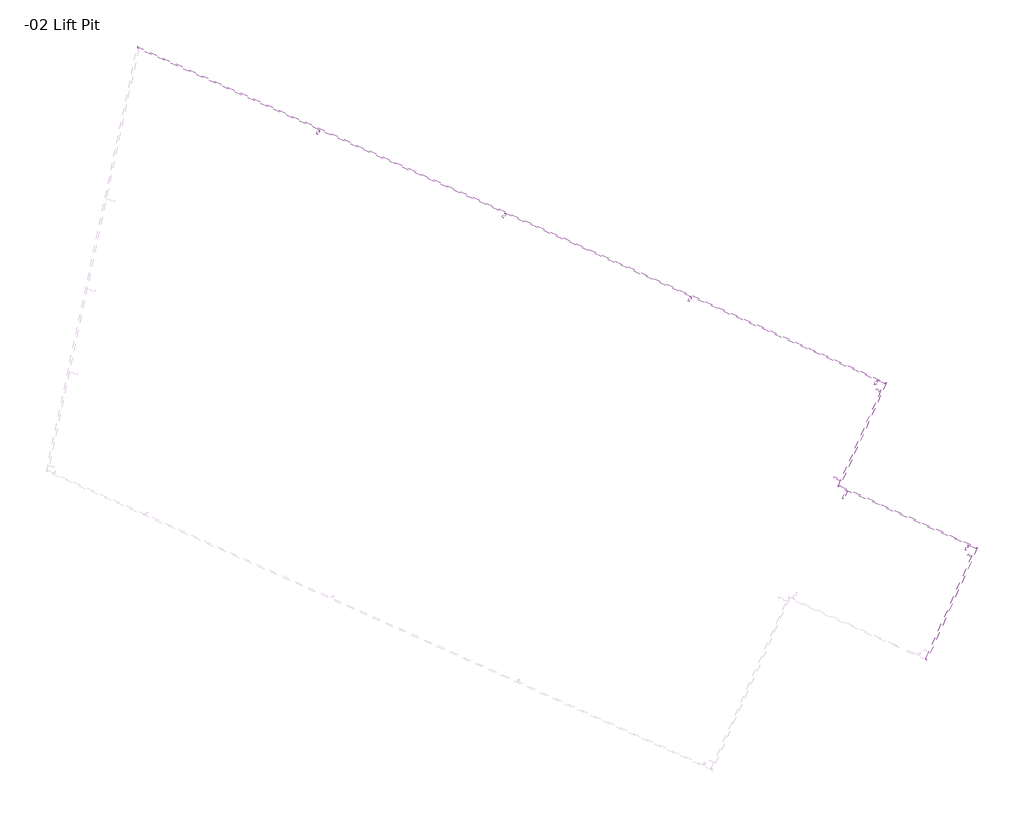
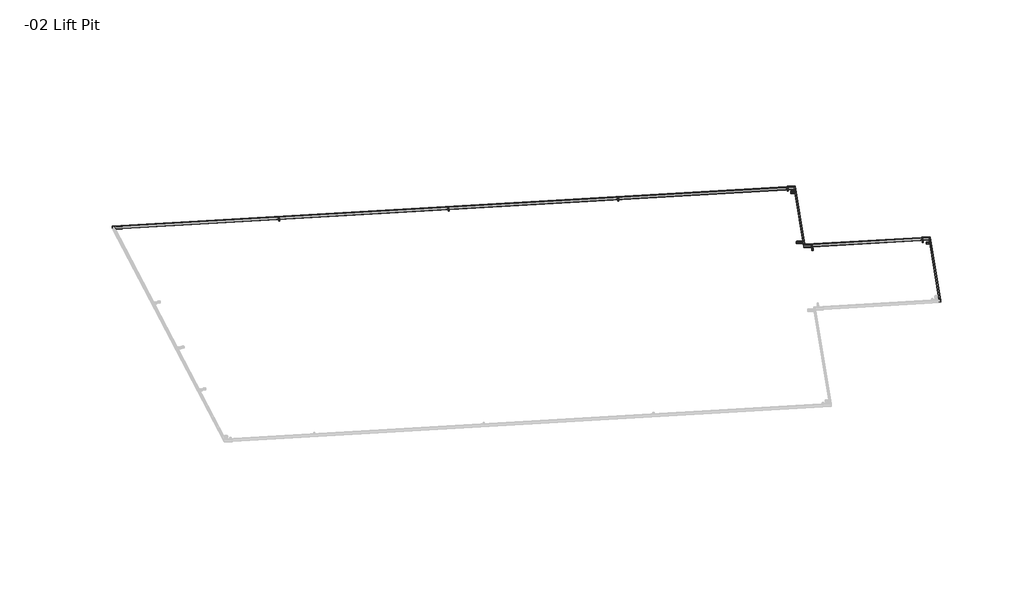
# One storey, part 3 of 3: 13 beams.
"""IFC4 building model written with IfcOpenShell, lengths in millimetres."""

from ifc_helpers import new_model, si_unit, frame, origin, place, context, project, spatial, polyline, ellipse_curve, transform, mapped, element, save
from ifc_brep_helpers import plane_surface, cylinder_surface, revolved_surface, advanced_brep
from components import hss_hollow_structural_section_hss3x2x1_8_a8fac2c2, hss_hollow_structural_section_hss3x2x1_8_4cf7df58, hss_hollow_structural_section_hss3x2x1_8_9bae5ac0, hss_hollow_structural_section_hss3x2x1_8_4448584e, hss_hollow_structural_section_hss3x2x1_8_013797e3, hss_hollow_structural_section_hss3x2x1_8_d322ad7d, hss_hollow_structural_section_hss3x2x1_8_eb60367d

model = new_model("IFC4")

# Units and contexts
model_context = context("Model", 3, world=origin())
ifc_project = project(units=[si_unit("LENGTHUNIT", "METRE", prefix="MILLI")], contexts=[model_context])

# Site, building, storey
site = spatial("IfcSite", under=ifc_project)
building = spatial("IfcBuilding", under=site)
storey = spatial("IfcBuildingStorey", under=building, Name="-02 Lift Pit", Elevation=-2133.6)

# Beams
placement = place(None, origin())
hss_hollow_structural_section_hss3x2x1_8_shape = hss_hollow_structural_section_hss3x2x1_8_a8fac2c2(model_context)
element("IfcBeam", 1, ObjectType="HSS-Hollow Structural Section : HSS3X2X1/8", at=placement, inside=storey, context=model_context, shape_type="MappedRepresentation", body=[
    mapped(hss_hollow_structural_section_hss3x2x1_8_shape, transform((36965.3915736, -2497.5805101, 16658.2302755), x_axis=(0.4091945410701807, 0.9109449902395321, 0.052335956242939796), y_axis=(-0.9121951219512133, 0.4097560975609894, 0.0), z_axis=(-0.021444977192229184, -0.04774060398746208, 0.9986295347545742))),
])
element("IfcBeam", 2, ObjectType="HSS-Hollow Structural Section : HSS3X2X1/8", at=placement, inside=storey, context=model_context, shape_type="MappedRepresentation", body=[
    mapped(hss_hollow_structural_section_hss3x2x1_8_shape, transform((43360.2442565, -5370.1346564, 16658.2302755), x_axis=(0.40919454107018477, 0.9109449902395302, 0.05233595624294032), y_axis=(-0.9121951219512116, 0.40975609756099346, 0.0), z_axis=(-0.0214449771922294, -0.047740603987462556, 0.9986295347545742))),
])
element("IfcBeam", 3, ObjectType="HSS-Hollow Structural Section : HSS3X2X1/8", at=placement, inside=storey, context=model_context, shape_type="MappedRepresentation", body=[
    mapped(hss_hollow_structural_section_hss3x2x1_8_shape, transform((56149.9496224, -11115.2429491, 16658.2302755), x_axis=(0.40919454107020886, 0.9109449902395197, 0.05233595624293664), y_axis=(-0.9121951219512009, 0.40975609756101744, 0.0), z_axis=(-0.021444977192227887, -0.04774060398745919, 0.9986295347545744))),
])
hss_hollow_structural_section_hss3x2x1_8_2_shape = hss_hollow_structural_section_hss3x2x1_8_4cf7df58(model_context)
element("IfcBeam", 4, ObjectType="HSS-Hollow Structural Section : HSS3X2X1/8", at=placement, inside=storey, context=model_context, shape_type="MappedRepresentation", body=[
    mapped(hss_hollow_structural_section_hss3x2x1_8_2_shape, transform((49758.4300196, -8235.2687316, 16658.6565762), x_axis=(0.40919454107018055, 0.9109449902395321, 0.052335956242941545), y_axis=(-0.9121951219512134, 0.40975609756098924, 0.0), z_axis=(-0.021444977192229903, -0.047740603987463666, 0.998629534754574))),
])
hss_hollow_structural_section_hss3x2x1_8_3_shape = hss_hollow_structural_section_hss3x2x1_8_9bae5ac0(model_context)
element("IfcBeam", 5, ObjectType="HSS-Hollow Structural Section : HSS3X2X1/8", at=placement, inside=storey, context=model_context, shape_type="MappedRepresentation", body=[
    mapped(hss_hollow_structural_section_hss3x2x1_8_3_shape, transform((56223.3592947, -11323.7476071, 16649.8389058), x_axis=(0.9121951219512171, -0.4097560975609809, 0.0), y_axis=(0.40919454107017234, 0.9109449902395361, 0.052335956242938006), z_axis=(-0.021444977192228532, -0.0477406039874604, 0.9986295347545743))),
])
hss_hollow_structural_section_hss3x2x1_8_4_shape = hss_hollow_structural_section_hss3x2x1_8_4448584e(model_context)
element("IfcBeam", 6, ObjectType="HSS-Hollow Structural Section : HSS3X2X1/8", at=placement, inside=storey, context=model_context, shape_type="MappedRepresentation", body=[
    mapped(hss_hollow_structural_section_hss3x2x1_8_4_shape, transform((54845.0693796, -14392.0834896, 16473.5557118), x_axis=(0.9121951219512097, -0.4097560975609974, 0.0), y_axis=(0.40919454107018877, 0.9109449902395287, 0.05233595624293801), z_axis=(-0.0214449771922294, -0.047740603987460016, 0.9986295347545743))),
])
hss_hollow_structural_section_hss3x2x1_8_5_shape = hss_hollow_structural_section_hss3x2x1_8_013797e3(model_context)
element("IfcBeam", 7, ObjectType="HSS-Hollow Structural Section : HSS3X2X1/8", at=placement, inside=storey, context=model_context, shape_type="MappedRepresentation", body=[
    mapped(hss_hollow_structural_section_hss3x2x1_8_5_shape, transform((55111.4186399, -14914.9250173, 16454.2803791), x_axis=(-0.409194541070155, -0.9109449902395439, -0.0523359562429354), y_axis=(0.912195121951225, -0.40975609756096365, 0.0), z_axis=(-0.021444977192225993, -0.04774060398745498, 0.9986295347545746))),
])
hss_hollow_structural_section_hss3x2x1_8_6_shape = hss_hollow_structural_section_hss3x2x1_8_d322ad7d(model_context)
element("IfcBeam", 8, ObjectType="HSS-Hollow Structural Section : HSS3X2X1/8", at=placement, inside=storey, context=model_context, shape_type="MappedRepresentation", body=[
    mapped(hss_hollow_structural_section_hss3x2x1_8_6_shape, transform((59281.9747374, -16788.3298954, 16454.2803791), x_axis=(0.40919454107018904, 0.9109449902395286, 0.05233595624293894), y_axis=(-0.9121951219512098, 0.4097560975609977, 0.0), z_axis=(-0.021444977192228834, -0.047740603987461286, 0.9986295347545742))),
])
hss_hollow_structural_section_hss3x2x1_8_7_shape = hss_hollow_structural_section_hss3x2x1_8_eb60367d(model_context)
element("IfcBeam", 9, ObjectType="HSS-Hollow Structural Section : HSS3X2X1/8", at=placement, inside=storey, context=model_context, shape_type="MappedRepresentation", body=[
    mapped(hss_hollow_structural_section_hss3x2x1_8_7_shape, transform((59352.9844438, -17002.1773347, 16445.582054), x_axis=(0.9121951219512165, -0.4097560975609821, 0.0), y_axis=(0.4091945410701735, 0.9109449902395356, 0.05233595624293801), z_axis=(-0.021444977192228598, -0.04774060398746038, 0.9986295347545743))),
])
element("IfcBeam", 10, ObjectType="HSS-Hollow Structural Section : HSS5X2X1/8", at=placement, inside=storey, context=model_context, shape_type="AdvancedBrep", body=[
    advanced_brep(
    [(56518.5551186, -11086.120904, 16705.6903584), (56526.4681746, -11082.8861722, 16700.1140396), (30771.4031294, 486.233955, 16700.1140396), (30775.5166497, 477.596911, 16705.6903584), (56467.0018937, -11105.6744879, 16703.6485024), (30803.5876534, 422.2762939, 16703.6485024), (56459.3415797, -11108.346568, 16697.455373), (30807.9539155, 414.2019015, 16697.455373), (56461.8123499, -11102.8461629, 16582.3988703), (30810.4246857, 419.7023065, 16582.3988703), (56469.7254058, -11099.6114312, 16576.8225515), (30806.3111655, 428.3393506, 16576.8225515), (56521.2786307, -11080.0578473, 16578.8644074), (30778.2401618, 483.6599677, 16578.8644074), (56528.9389447, -11077.3857672, 16585.0575369), (30773.8738996, 491.73436, 16585.0575369), (56518.6183041, -11085.980241, 16702.7479963), (56467.0650792, -11105.533825, 16700.7061404), (30803.6508388, 422.4169568, 16700.7061404), (30775.5798351, 477.7375739, 16702.7479963), (56522.5748321, -11084.3628752, 16699.9598369), (30773.523075, 482.0560959, 16699.9598369), (56525.0456022, -11078.8624701, 16584.9033342), (30775.9938452, 487.5565009, 16584.9033342), (56521.2154452, -11080.1985102, 16581.8067695), (30778.1769763, 483.5193048, 16581.8067695), (56469.6622203, -11099.7520941, 16579.7649136), (30806.24798, 428.1986877, 16579.7649136), (56465.7056924, -11101.36946, 16582.553073), (30808.3047401, 423.8801657, 16582.553073), (56463.2349222, -11106.869865, 16697.6095756), (30805.8339699, 418.3797606, 16697.6095756)],
    [
        (0, 1, ellipse_curve(frame((56518.6814896, -11085.8395781, 16699.8056342), z_axis=(-0.35567512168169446, 0.93387669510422, 0.03700710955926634), x_axis=(0.934363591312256, 0.3543940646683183, 0.03700710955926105)), 8.3336777, 5.8928)),
        (1, 2),
        (2, 3, ellipse_curve(frame((30775.6430206, 477.8782368, 16699.8056342), z_axis=(0.8916297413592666, 0.45093186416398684, 0.04070452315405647), x_axis=(0.45225713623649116, -0.891280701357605, -0.03289671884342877)), 9.3749569, 5.8928)),
        (3, 0),
        (4, 0),
        (3, 5),
        (5, 4),
        (6, 4, ellipse_curve(frame((56467.1282647, -11105.3931621, 16697.7637783), z_axis=(-0.35567512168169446, 0.93387669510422, 0.03700710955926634), x_axis=(0.934363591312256, 0.3543940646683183, 0.03700710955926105)), 8.3336777, 5.8928)),
        (5, 7, ellipse_curve(frame((30803.7140243, 422.5576197, 16697.7637783), z_axis=(0.8916297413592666, 0.45093186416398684, 0.04070452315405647), x_axis=(0.45225713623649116, -0.891280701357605, -0.03289671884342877)), 9.3749569, 5.8928)),
        (7, 6),
        (8, 6),
        (7, 9),
        (9, 8),
        (10, 8, ellipse_curve(frame((56469.5990349, -11099.892757, 16582.7072756), z_axis=(-0.35567512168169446, 0.93387669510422, 0.03700710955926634), x_axis=(0.934363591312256, 0.3543940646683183, 0.03700710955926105)), 8.3336777, 5.8928)),
        (9, 11, ellipse_curve(frame((30806.1847945, 428.0580248, 16582.7072756), z_axis=(0.8916297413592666, 0.45093186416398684, 0.04070452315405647), x_axis=(0.45225713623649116, -0.891280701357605, -0.03289671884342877)), 9.3749569, 5.8928)),
        (11, 10),
        (12, 10),
        (11, 13),
        (13, 12),
        (14, 12, ellipse_curve(frame((56521.1522597, -11080.3391731, 16584.7491316), z_axis=(-0.35567512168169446, 0.93387669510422, 0.03700710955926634), x_axis=(0.934363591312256, 0.3543940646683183, 0.03700710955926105)), 8.3336777, 5.8928)),
        (13, 15, ellipse_curve(frame((30778.1137908, 483.3786418, 16584.7491316), z_axis=(0.8916297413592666, 0.45093186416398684, 0.04070452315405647), x_axis=(0.45225713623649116, -0.891280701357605, -0.03289671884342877)), 9.3749569, 5.8928)),
        (15, 14),
        (1, 14),
        (15, 2),
        (16, 17),
        (17, 18),
        (18, 19),
        (19, 16),
        (20, 16, ellipse_curve(frame((56518.6814896, -11085.8395781, 16699.8056342), z_axis=(0.35567512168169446, -0.93387669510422, -0.03700710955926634), x_axis=(-0.934363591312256, -0.3543940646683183, -0.03700710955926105)), 4.1668388, 2.9464)),
        (19, 21, ellipse_curve(frame((30775.6430206, 477.8782368, 16699.8056342), z_axis=(-0.8916297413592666, -0.45093186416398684, -0.04070452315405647), x_axis=(-0.45225713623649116, 0.891280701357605, 0.03289671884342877)), 4.6874785, 2.9464)),
        (21, 20),
        (22, 20),
        (21, 23),
        (23, 22),
        (24, 22, ellipse_curve(frame((56521.1522597, -11080.3391731, 16584.7491316), z_axis=(0.35567512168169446, -0.93387669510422, -0.03700710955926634), x_axis=(-0.934363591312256, -0.3543940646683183, -0.03700710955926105)), 4.1668388, 2.9464)),
        (23, 25, ellipse_curve(frame((30778.1137908, 483.3786418, 16584.7491316), z_axis=(-0.8916297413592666, -0.45093186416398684, -0.04070452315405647), x_axis=(-0.45225713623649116, 0.891280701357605, 0.03289671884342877)), 4.6874785, 2.9464)),
        (25, 24),
        (26, 24),
        (25, 27),
        (27, 26),
        (28, 26, ellipse_curve(frame((56469.5990349, -11099.892757, 16582.7072756), z_axis=(0.35567512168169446, -0.93387669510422, -0.03700710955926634), x_axis=(-0.934363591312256, -0.3543940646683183, -0.03700710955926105)), 4.1668388, 2.9464)),
        (27, 29, ellipse_curve(frame((30806.1847945, 428.0580248, 16582.7072756), z_axis=(-0.8916297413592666, -0.45093186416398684, -0.04070452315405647), x_axis=(-0.45225713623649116, 0.891280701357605, 0.03289671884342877)), 4.6874785, 2.9464)),
        (29, 28),
        (30, 28),
        (29, 31),
        (31, 30),
        (17, 30, ellipse_curve(frame((56467.1282647, -11105.3931621, 16697.7637783), z_axis=(0.35567512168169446, -0.93387669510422, -0.03700710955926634), x_axis=(-0.934363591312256, -0.3543940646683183, -0.03700710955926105)), 4.1668388, 2.9464)),
        (31, 18, ellipse_curve(frame((30803.7140243, 422.5576197, 16697.7637783), z_axis=(-0.8916297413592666, -0.45093186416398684, -0.04070452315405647), x_axis=(-0.45225713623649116, 0.891280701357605, 0.03289671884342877)), 4.6874785, 2.9464)),
    ],
    [
        cylinder_surface(frame((56500.8871169, -11077.846384, 16699.8056342), z_axis=(0.9121951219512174, -0.40975609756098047, 0.0), x_axis=(-0.40919454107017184, -0.9109449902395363, -0.05233595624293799)), 5.8928),
        plane_surface(frame((56500.7607459, -11078.1277098, 16705.6903584), z_axis=(-0.02144497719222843, -0.04774060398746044, 0.9986295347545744), x_axis=(-0.9121951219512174, 0.40975609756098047, 0.0))),
        cylinder_surface(frame((56484.9226374, -11113.3863562, 16697.7637783), z_axis=(0.9121951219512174, -0.40975609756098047, 0.0), x_axis=(-0.40919454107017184, -0.9109449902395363, -0.05233595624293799)), 5.8928),
        plane_surface(frame((56482.5113358, -11118.7543728, 16697.455373), z_axis=(-0.4091945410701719, -0.9109449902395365, -0.052335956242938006), x_axis=(-0.9121951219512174, 0.40975609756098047, 0.0))),
        cylinder_surface(frame((56487.3934075, -11107.8859512, 16582.7072756), z_axis=(0.9121951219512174, -0.40975609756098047, 0.0), x_axis=(-0.40919454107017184, -0.9109449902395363, -0.05233595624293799)), 5.8928),
        plane_surface(frame((56487.5197785, -11107.6046253, 16576.8225515), z_axis=(0.02144497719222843, 0.04774060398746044, -0.9986295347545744), x_axis=(-0.9121951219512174, 0.40975609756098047, 0.0))),
        cylinder_surface(frame((56503.3578871, -11072.3459789, 16584.7491316), z_axis=(0.9121951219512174, -0.40975609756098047, 0.0), x_axis=(-0.40919454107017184, -0.9109449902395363, -0.05233595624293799)), 5.8928),
        plane_surface(frame((56505.7691886, -11066.9779623, 16585.0575369), z_axis=(0.4091945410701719, 0.9109449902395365, 0.052335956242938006), x_axis=(-0.9121951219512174, 0.40975609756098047, 0.0))),
        plane_surface(frame((56484.8594519, -11113.5270191, 16700.7061404), z_axis=(0.02144497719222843, 0.04774060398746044, -0.9986295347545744), x_axis=(-0.9121951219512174, 0.40975609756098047, 0.0))),
        revolved_surface(polyline([(30771.111773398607, 476.68807927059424, 16699.65143153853), (56520.16353050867, -11089.730891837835, 16699.65143153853)]), (56500.8871169, -11077.846384, 16699.8056342), (-0.9121951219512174, 0.40975609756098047, 0.0)),
        plane_surface(frame((56502.0927677, -11075.1623757, 16699.9598369), z_axis=(-0.4091945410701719, -0.9109449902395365, -0.052335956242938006), x_axis=(-0.9121951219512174, 0.40975609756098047, 0.0))),
        revolved_surface(polyline([(30773.58254363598, 482.1884843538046, 16584.594928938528), (56522.63430062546, -11084.230486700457, 16584.594928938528)]), (56503.3578871, -11072.3459789, 16584.7491316), (-0.9121951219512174, 0.40975609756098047, 0.0)),
        plane_surface(frame((56503.4210725, -11072.205316, 16581.8067695), z_axis=(-0.02144497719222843, -0.04774060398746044, 0.9986295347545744), x_axis=(-0.9121951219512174, 0.40975609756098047, 0.0))),
        revolved_surface(polyline([(30801.65354725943, 426.8678671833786, 16582.55307293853), (56471.08107575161, -11103.7840707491, 16582.55307293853)]), (56487.3934075, -11107.8859512, 16582.7072756), (-0.9121951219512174, 0.40975609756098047, 0.0)),
        plane_surface(frame((56486.1877568, -11110.5699595, 16582.553073), z_axis=(0.4091945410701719, 0.9109449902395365, 0.052335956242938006), x_axis=(-0.9121951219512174, 0.40975609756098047, 0.0))),
        revolved_surface(polyline([(30799.182777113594, 421.3674622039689, 16697.609575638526), (56468.61030560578, -11109.284475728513, 16697.609575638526)]), (56484.9226374, -11113.3863562, 16697.7637783), (-0.9121951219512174, 0.40975609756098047, 0.0)),
        plane_surface(frame((30806.1934373, 410.2827416, 16779.4356677), z_axis=(-0.8916297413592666, -0.45093186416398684, -0.04070452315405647), x_axis=(0.4527652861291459, -0.888019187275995, -0.08015933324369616))),
        plane_surface(frame((56457.5811015, -11112.2657278, 16779.4356677), z_axis=(0.3556751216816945, -0.9338766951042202, -0.037007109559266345), x_axis=(0.9346096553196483, 0.35539618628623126, 0.014083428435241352))),
    ],
    [
        (0, [[1, 2, 3, 4]]),
        (1, [[5, -4, 6, 7]]),
        (2, [[8, -7, 9, 10]]),
        (3, [[11, -10, 12, 13]]),
        (4, [[14, -13, 15, 16]]),
        (5, [[17, -16, 18, 19]]),
        (6, [[20, -19, 21, 22]]),
        (7, [[23, -22, 24, -2]]),
        (8, [[25, 26, 27, 28]]),
        (9, [[29, -28, 30, 31]]),
        (10, [[32, -31, 33, 34]]),
        (11, [[35, -34, 36, 37]]),
        (12, [[38, -37, 39, 40]]),
        (13, [[41, -40, 42, 43]]),
        (14, [[44, -43, 45, 46]]),
        (15, [[47, -46, 48, -26]]),
        (16, [[-24, -21, -18, -15, -12, -9, -6, -3], [-48, -45, -42, -39, -36, -33, -30, -27]]),
        (17, [[-1, -5, -8, -11, -14, -17, -20, -23], [-25, -29, -32, -35, -38, -41, -44, -47]]),
    ],
),
])
element("IfcBeam", 11, ObjectType="HSS-Hollow Structural Section : HSS5X2X1/8", at=placement, inside=storey, context=model_context, shape_type="AdvancedBrep", body=[
    advanced_brep(
    [(54925.8991442, -14631.6764659, 16501.9897587), (54933.8122002, -14628.4417342, 16496.4134399), (56526.4681746, -11082.8861722, 16700.1140396), (56518.5551186, -11086.120904, 16705.6903584), (54874.3459194, -14651.2300499, 16499.9479028), (56467.0018937, -11105.6744879, 16703.6485024), (54866.6856053, -14653.90213, 16493.7547733), (56459.3415797, -11108.346568, 16697.455373), (54869.1563755, -14648.4017249, 16378.6982707), (56461.8123499, -11102.8461629, 16582.3988703), (54877.0694315, -14645.1669932, 16373.1219519), (56469.7254058, -11099.6114312, 16576.8225515), (54928.6226563, -14625.6134092, 16375.1638078), (56521.2786307, -11080.0578473, 16578.8644074), (54936.2829704, -14622.9413292, 16381.3569373), (56528.9389447, -11077.3857672, 16585.0575369), (54925.9623297, -14631.535803, 16499.0473967), (54874.4091048, -14651.089387, 16497.0055407), (56467.0650792, -11105.533825, 16700.7061404), (56518.6183041, -11085.980241, 16702.7479963), (54929.9188577, -14629.9184372, 16496.2592373), (56522.5748321, -11084.3628752, 16699.9598369), (54932.3896279, -14624.4180321, 16381.2027346), (56525.0456022, -11078.8624701, 16584.9033342), (54928.5594708, -14625.7540722, 16378.1061699), (56521.2154452, -11080.1985102, 16581.8067695), (54877.006246, -14645.3076561, 16376.0643139), (56469.6622203, -11099.7520941, 16579.7649136), (54873.049718, -14646.925022, 16378.8524733), (56465.7056924, -11101.36946, 16582.553073), (54870.5789478, -14652.425427, 16493.908976), (56463.2349222, -11106.869865, 16697.6095756)],
    [
        (0, 1, ellipse_curve(frame((54926.0255152, -14631.3951401, 16496.1050346), z_axis=(-0.3556751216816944, 0.93387669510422, 0.0370071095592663), x_axis=(-0.934363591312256, -0.3543940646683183, -0.037007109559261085)), 8.3336777, 5.8928)),
        (1, 2),
        (2, 3, ellipse_curve(frame((56518.6814896, -11085.8395781, 16699.8056342), z_axis=(0.35567512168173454, -0.9338766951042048, -0.037007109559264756), x_axis=(-0.9343635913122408, -0.3543940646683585, -0.03700710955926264)), 8.3336777, 5.8928)),
        (3, 0),
        (4, 0),
        (3, 5),
        (5, 4),
        (6, 4, ellipse_curve(frame((54874.4722903, -14650.948724, 16494.0631787), z_axis=(-0.3556751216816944, 0.93387669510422, 0.0370071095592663), x_axis=(-0.934363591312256, -0.3543940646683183, -0.037007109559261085)), 8.3336777, 5.8928)),
        (5, 7, ellipse_curve(frame((56467.1282647, -11105.3931621, 16697.7637783), z_axis=(0.35567512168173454, -0.9338766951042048, -0.037007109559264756), x_axis=(-0.9343635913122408, -0.3543940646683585, -0.03700710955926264)), 8.3336777, 5.8928)),
        (7, 6),
        (8, 6),
        (7, 9),
        (9, 8),
        (10, 8, ellipse_curve(frame((54876.9430605, -14645.448319, 16379.006676), z_axis=(-0.3556751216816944, 0.93387669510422, 0.0370071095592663), x_axis=(-0.934363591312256, -0.3543940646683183, -0.037007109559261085)), 8.3336777, 5.8928)),
        (9, 11, ellipse_curve(frame((56469.5990349, -11099.892757, 16582.7072756), z_axis=(0.35567512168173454, -0.9338766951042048, -0.037007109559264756), x_axis=(-0.9343635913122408, -0.3543940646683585, -0.03700710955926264)), 8.3336777, 5.8928)),
        (11, 10),
        (12, 10),
        (11, 13),
        (13, 12),
        (14, 12, ellipse_curve(frame((54928.4962854, -14625.8947351, 16381.0485319), z_axis=(-0.3556751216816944, 0.93387669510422, 0.0370071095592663), x_axis=(-0.934363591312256, -0.3543940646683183, -0.037007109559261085)), 8.3336777, 5.8928)),
        (13, 15, ellipse_curve(frame((56521.1522597, -11080.3391731, 16584.7491316), z_axis=(0.35567512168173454, -0.9338766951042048, -0.037007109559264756), x_axis=(-0.9343635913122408, -0.3543940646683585, -0.03700710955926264)), 8.3336777, 5.8928)),
        (15, 14),
        (1, 14),
        (15, 2),
        (16, 17),
        (17, 18),
        (18, 19),
        (19, 16),
        (20, 16, ellipse_curve(frame((54926.0255152, -14631.3951401, 16496.1050346), z_axis=(0.3556751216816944, -0.93387669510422, -0.0370071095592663), x_axis=(0.934363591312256, 0.3543940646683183, 0.037007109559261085)), 4.1668388, 2.9464)),
        (19, 21, ellipse_curve(frame((56518.6814896, -11085.8395781, 16699.8056342), z_axis=(-0.35567512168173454, 0.9338766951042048, 0.037007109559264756), x_axis=(0.9343635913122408, 0.3543940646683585, 0.03700710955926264)), 4.1668388, 2.9464)),
        (21, 20),
        (22, 20),
        (21, 23),
        (23, 22),
        (24, 22, ellipse_curve(frame((54928.4962854, -14625.8947351, 16381.0485319), z_axis=(0.3556751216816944, -0.93387669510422, -0.0370071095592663), x_axis=(0.934363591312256, 0.3543940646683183, 0.037007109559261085)), 4.1668388, 2.9464)),
        (23, 25, ellipse_curve(frame((56521.1522597, -11080.3391731, 16584.7491316), z_axis=(-0.35567512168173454, 0.9338766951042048, 0.037007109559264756), x_axis=(0.9343635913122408, 0.3543940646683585, 0.03700710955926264)), 4.1668388, 2.9464)),
        (25, 24),
        (26, 24),
        (25, 27),
        (27, 26),
        (28, 26, ellipse_curve(frame((54876.9430605, -14645.448319, 16379.006676), z_axis=(0.3556751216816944, -0.93387669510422, -0.0370071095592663), x_axis=(0.934363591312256, 0.3543940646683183, 0.037007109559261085)), 4.1668388, 2.9464)),
        (27, 29, ellipse_curve(frame((56469.5990349, -11099.892757, 16582.7072756), z_axis=(-0.35567512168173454, 0.9338766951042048, 0.037007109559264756), x_axis=(0.9343635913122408, 0.3543940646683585, 0.03700710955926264)), 4.1668388, 2.9464)),
        (29, 28),
        (30, 28),
        (29, 31),
        (31, 30),
        (17, 30, ellipse_curve(frame((54874.4722903, -14650.948724, 16494.0631787), z_axis=(0.3556751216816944, -0.93387669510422, -0.0370071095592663), x_axis=(0.934363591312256, 0.3543940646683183, 0.037007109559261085)), 4.1668388, 2.9464)),
        (31, 18, ellipse_curve(frame((56467.1282647, -11105.3931621, 16697.7637783), z_axis=(-0.35567512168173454, 0.9338766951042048, 0.037007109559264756), x_axis=(0.9343635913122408, 0.3543940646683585, 0.03700710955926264)), 4.1668388, 2.9464)),
    ],
    [
        cylinder_surface(frame((54918.0432754, -14649.1651262, 16495.0841066), z_axis=(-0.40919454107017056, -0.9109449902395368, -0.05233595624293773), x_axis=(-0.9121951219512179, 0.40975609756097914, 0.0)), 5.8928),
        plane_surface(frame((54917.9169045, -14649.4464521, 16500.9688308), z_axis=(-0.021444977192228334, -0.04774060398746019, 0.9986295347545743), x_axis=(0.4091945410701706, 0.9109449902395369, 0.052335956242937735))),
        cylinder_surface(frame((54882.4545301, -14633.1787379, 16495.0841066), z_axis=(-0.40919454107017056, -0.9109449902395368, -0.05233595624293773), x_axis=(-0.9121951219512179, 0.40975609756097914, 0.0)), 5.8928),
        plane_surface(frame((54877.0791467, -14630.7641272, 16495.0841066), z_axis=(-0.9121951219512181, 0.40975609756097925, 0.0), x_axis=(0.4091945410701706, 0.9109449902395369, 0.052335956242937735))),
        cylinder_surface(frame((54884.9253002, -14627.6783329, 16380.027604), z_axis=(-0.40919454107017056, -0.9109449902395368, -0.05233595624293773), x_axis=(-0.9121951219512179, 0.40975609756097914, 0.0)), 5.8928),
        plane_surface(frame((54885.0516712, -14627.3970071, 16374.1428798), z_axis=(0.021444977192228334, 0.04774060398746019, -0.9986295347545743), x_axis=(0.4091945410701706, 0.9109449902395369, 0.052335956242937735))),
        cylinder_surface(frame((54920.5140456, -14643.6647212, 16380.027604), z_axis=(-0.40919454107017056, -0.9109449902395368, -0.05233595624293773), x_axis=(-0.9121951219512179, 0.40975609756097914, 0.0)), 5.8928),
        plane_surface(frame((54925.889429, -14646.0793319, 16380.027604), z_axis=(0.9121951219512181, -0.40975609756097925, 0.0), x_axis=(0.4091945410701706, 0.9109449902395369, 0.052335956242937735))),
        plane_surface(frame((54882.3913446, -14633.3194009, 16498.0264687), z_axis=(0.021444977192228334, 0.04774060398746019, -0.9986295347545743), x_axis=(0.4091945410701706, 0.9109449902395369, 0.052335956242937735))),
        revolved_surface(polyline([(56517.19944861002, -11081.948264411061, 16699.959836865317), (54922.13217266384, -14632.8718430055, 16495.950831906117)]), (54918.0432754, -14649.1651262, 16495.0841066), (0.40919454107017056, 0.9109449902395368, 0.05233595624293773)),
        plane_surface(frame((54920.7309671, -14650.3724316, 16495.0841066), z_axis=(-0.9121951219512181, 0.40975609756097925, 0.0), x_axis=(0.4091945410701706, 0.9109449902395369, 0.052335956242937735))),
        revolved_surface(polyline([(56519.670218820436, -11076.447859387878, 16584.903334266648), (54924.6029428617, -14627.37143801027, 16380.894329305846)]), (54920.5140456, -14643.6647212, 16380.027604), (0.40919454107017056, 0.9109449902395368, 0.05233595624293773)),
        plane_surface(frame((54920.5772311, -14643.5240583, 16377.0852419), z_axis=(-0.021444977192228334, -0.04774060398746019, 0.9986295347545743), x_axis=(0.4091945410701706, 0.9109449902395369, 0.052335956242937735))),
        revolved_surface(polyline([(56468.11699391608, -11096.001443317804, 16582.86147833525), (54873.0497179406, -14646.92502197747, 16378.852473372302)]), (54884.9253002, -14627.6783329, 16380.027604), (0.40919454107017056, 0.9109449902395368, 0.05233595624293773)),
        plane_surface(frame((54882.2376085, -14626.4710275, 16380.027604), z_axis=(0.9121951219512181, -0.40975609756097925, 0.0), x_axis=(0.4091945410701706, 0.9109449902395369, 0.052335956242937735))),
        revolved_surface(polyline([(56465.64622376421, -11101.501848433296, 16697.91798092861), (54870.578947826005, -14652.425427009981, 16493.908975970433)]), (54882.4545301, -14633.1787379, 16495.0841066), (0.40919454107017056, 0.9109449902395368, 0.05233595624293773)),
        plane_surface(frame((56457.5811015, -11112.2657278, 16779.4356677), z_axis=(-0.3556751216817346, 0.933876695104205, 0.03700710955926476), x_axis=(0.9346096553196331, 0.35539618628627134, 0.014083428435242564))),
        plane_surface(frame((54932.051722, -14632.3608941, 16578.3937346), z_axis=(0.35567512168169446, -0.9338766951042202, -0.03700710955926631), x_axis=(0.9346096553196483, 0.35539618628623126, 0.01408342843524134))),
    ],
    [
        (0, [[1, 2, 3, 4]]),
        (1, [[5, -4, 6, 7]]),
        (2, [[8, -7, 9, 10]]),
        (3, [[11, -10, 12, 13]]),
        (4, [[14, -13, 15, 16]]),
        (5, [[17, -16, 18, 19]]),
        (6, [[20, -19, 21, 22]]),
        (7, [[23, -22, 24, -2]]),
        (8, [[25, 26, 27, 28]]),
        (9, [[29, -28, 30, 31]]),
        (10, [[32, -31, 33, 34]]),
        (11, [[35, -34, 36, 37]]),
        (12, [[38, -37, 39, 40]]),
        (13, [[41, -40, 42, 43]]),
        (14, [[44, -43, 45, 46]]),
        (15, [[47, -46, 48, -26]]),
        (16, [[-24, -21, -18, -15, -12, -9, -6, -3], [-48, -45, -42, -39, -36, -33, -30, -27]]),
        (17, [[-1, -5, -8, -11, -14, -17, -20, -23], [-25, -29, -32, -35, -38, -41, -44, -47]]),
    ],
),
])
element("IfcBeam", 12, ObjectType="HSS-Hollow Structural Section : HSS5X2X1/8", at=placement, inside=storey, context=model_context, shape_type="AdvancedBrep", body=[
    advanced_brep(
    [(59652.5293881, -16754.8686611, 16501.9897587), (59660.4424441, -16751.6339293, 16496.4134399), (54933.8122002, -14628.4417342, 16496.4134399), (54925.8991442, -14631.6764659, 16501.9897587), (59600.9761633, -16774.422245, 16499.9479028), (54874.3459194, -14651.2300499, 16499.9479028), (59593.3158492, -16777.0943251, 16493.7547733), (54866.6856053, -14653.90213, 16493.7547733), (59595.7866194, -16771.59392, 16378.6982707), (54869.1563755, -14648.4017249, 16378.6982707), (59603.6996754, -16768.3591883, 16373.1219519), (54877.0694315, -14645.1669932, 16373.1219519), (59655.2529002, -16748.8056044, 16375.1638078), (54928.6226563, -14625.6134092, 16375.1638078), (59662.9132143, -16746.1335243, 16381.3569373), (54936.2829704, -14622.9413292, 16381.3569373), (59652.5925736, -16754.7279982, 16499.0473967), (59601.0393487, -16774.2815821, 16497.0055407), (54874.4091048, -14651.089387, 16497.0055407), (54925.9623297, -14631.535803, 16499.0473967), (59656.5491016, -16753.1106323, 16496.2592373), (54929.9188577, -14629.9184372, 16496.2592373), (59659.0198718, -16747.6102272, 16381.2027346), (54932.3896279, -14624.4180321, 16381.2027346), (59655.1897147, -16748.9462673, 16378.1061699), (54928.5594708, -14625.7540722, 16378.1061699), (59603.6364899, -16768.4998512, 16376.0643139), (54877.006246, -14645.3076561, 16376.0643139), (59599.6799619, -16770.1172171, 16378.8524733), (54873.049718, -14646.925022, 16378.8524733), (59597.2091917, -16775.6176221, 16493.908976), (54870.5789478, -14652.425427, 16493.908976)],
    [
        (0, 1, ellipse_curve(frame((59652.6557591, -16754.5873352, 16496.1050346), z_axis=(-0.35567512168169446, 0.93387669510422, 0.03700710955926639), x_axis=(0.9343635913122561, 0.35439406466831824, 0.037007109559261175)), 8.3336777, 5.8928)),
        (1, 2),
        (2, 3, ellipse_curve(frame((54926.0255152, -14631.3951401, 16496.1050346), z_axis=(0.3556751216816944, -0.93387669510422, -0.0370071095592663), x_axis=(0.9343635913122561, 0.35439406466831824, 0.037007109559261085)), 8.3336777, 5.8928)),
        (3, 0),
        (4, 0),
        (3, 5),
        (5, 4),
        (6, 4, ellipse_curve(frame((59601.1025342, -16774.1409192, 16494.0631787), z_axis=(-0.35567512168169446, 0.93387669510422, 0.03700710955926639), x_axis=(0.9343635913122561, 0.35439406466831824, 0.037007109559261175)), 8.3336777, 5.8928)),
        (5, 7, ellipse_curve(frame((54874.4722903, -14650.948724, 16494.0631787), z_axis=(0.3556751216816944, -0.93387669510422, -0.0370071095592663), x_axis=(0.9343635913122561, 0.35439406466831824, 0.037007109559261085)), 8.3336777, 5.8928)),
        (7, 6),
        (8, 6),
        (7, 9),
        (9, 8),
        (10, 8, ellipse_curve(frame((59603.5733044, -16768.6405141, 16379.006676), z_axis=(-0.35567512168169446, 0.93387669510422, 0.03700710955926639), x_axis=(0.9343635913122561, 0.35439406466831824, 0.037007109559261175)), 8.3336777, 5.8928)),
        (9, 11, ellipse_curve(frame((54876.9430605, -14645.448319, 16379.006676), z_axis=(0.3556751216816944, -0.93387669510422, -0.0370071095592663), x_axis=(0.9343635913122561, 0.35439406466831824, 0.037007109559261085)), 8.3336777, 5.8928)),
        (11, 10),
        (12, 10),
        (11, 13),
        (13, 12),
        (14, 12, ellipse_curve(frame((59655.1265293, -16749.0869302, 16381.0485319), z_axis=(-0.35567512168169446, 0.93387669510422, 0.03700710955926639), x_axis=(0.9343635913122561, 0.35439406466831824, 0.037007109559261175)), 8.3336777, 5.8928)),
        (13, 15, ellipse_curve(frame((54928.4962854, -14625.8947351, 16381.0485319), z_axis=(0.3556751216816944, -0.93387669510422, -0.0370071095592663), x_axis=(0.9343635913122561, 0.35439406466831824, 0.037007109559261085)), 8.3336777, 5.8928)),
        (15, 14),
        (1, 14),
        (15, 2),
        (16, 17),
        (17, 18),
        (18, 19),
        (19, 16),
        (20, 16, ellipse_curve(frame((59652.6557591, -16754.5873352, 16496.1050346), z_axis=(0.35567512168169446, -0.93387669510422, -0.03700710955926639), x_axis=(-0.9343635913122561, -0.35439406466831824, -0.037007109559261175)), 4.1668388, 2.9464)),
        (19, 21, ellipse_curve(frame((54926.0255152, -14631.3951401, 16496.1050346), z_axis=(-0.3556751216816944, 0.93387669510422, 0.0370071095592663), x_axis=(-0.9343635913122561, -0.35439406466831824, -0.037007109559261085)), 4.1668388, 2.9464)),
        (21, 20),
        (22, 20),
        (21, 23),
        (23, 22),
        (24, 22, ellipse_curve(frame((59655.1265293, -16749.0869302, 16381.0485319), z_axis=(0.35567512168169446, -0.93387669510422, -0.03700710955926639), x_axis=(-0.9343635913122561, -0.35439406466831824, -0.037007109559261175)), 4.1668388, 2.9464)),
        (23, 25, ellipse_curve(frame((54928.4962854, -14625.8947351, 16381.0485319), z_axis=(-0.3556751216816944, 0.93387669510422, 0.0370071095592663), x_axis=(-0.9343635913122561, -0.35439406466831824, -0.037007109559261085)), 4.1668388, 2.9464)),
        (25, 24),
        (26, 24),
        (25, 27),
        (27, 26),
        (28, 26, ellipse_curve(frame((59603.5733044, -16768.6405141, 16379.006676), z_axis=(0.35567512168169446, -0.93387669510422, -0.03700710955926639), x_axis=(-0.9343635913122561, -0.35439406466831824, -0.037007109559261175)), 4.1668388, 2.9464)),
        (27, 29, ellipse_curve(frame((54876.9430605, -14645.448319, 16379.006676), z_axis=(-0.3556751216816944, 0.93387669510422, 0.0370071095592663), x_axis=(-0.9343635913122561, -0.35439406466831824, -0.037007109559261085)), 4.1668388, 2.9464)),
        (29, 28),
        (30, 28),
        (29, 31),
        (31, 30),
        (17, 30, ellipse_curve(frame((59601.1025342, -16774.1409192, 16494.0631787), z_axis=(0.35567512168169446, -0.93387669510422, -0.03700710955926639), x_axis=(-0.9343635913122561, -0.35439406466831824, -0.037007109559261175)), 4.1668388, 2.9464)),
        (31, 18, ellipse_curve(frame((54874.4722903, -14650.948724, 16494.0631787), z_axis=(-0.3556751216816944, 0.93387669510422, 0.0370071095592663), x_axis=(-0.9343635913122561, -0.35439406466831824, -0.037007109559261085)), 4.1668388, 2.9464)),
    ],
    [
        cylinder_surface(frame((59634.8613864, -16746.5941411, 16496.1050346), z_axis=(0.9121951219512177, -0.4097560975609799, 0.0), x_axis=(-0.40919454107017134, -0.9109449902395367, -0.05233595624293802)), 5.8928),
        plane_surface(frame((59634.7350154, -16746.8754669, 16501.9897587), z_axis=(-0.02144497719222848, -0.047740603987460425, 0.9986295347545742), x_axis=(-0.9121951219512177, 0.4097560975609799, 0.0))),
        cylinder_surface(frame((59618.8969069, -16782.1341133, 16494.0631787), z_axis=(0.9121951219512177, -0.4097560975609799, 0.0), x_axis=(-0.40919454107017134, -0.9109449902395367, -0.05233595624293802)), 5.8928),
        plane_surface(frame((59616.4856053, -16787.50213, 16493.7547733), z_axis=(-0.40919454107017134, -0.9109449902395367, -0.05233595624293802), x_axis=(-0.9121951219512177, 0.4097560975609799, 0.0))),
        cylinder_surface(frame((59621.3676771, -16776.6337083, 16379.006676), z_axis=(0.9121951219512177, -0.4097560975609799, 0.0), x_axis=(-0.40919454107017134, -0.9109449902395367, -0.05233595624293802)), 5.8928),
        plane_surface(frame((59621.494048, -16776.3523824, 16373.1219519), z_axis=(0.02144497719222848, 0.047740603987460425, -0.9986295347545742), x_axis=(-0.9121951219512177, 0.4097560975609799, 0.0))),
        cylinder_surface(frame((59637.3321566, -16741.093736, 16381.0485319), z_axis=(0.9121951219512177, -0.4097560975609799, 0.0), x_axis=(-0.40919454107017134, -0.9109449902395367, -0.05233595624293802)), 5.8928),
        plane_surface(frame((59639.7434582, -16735.7257194, 16381.3569373), z_axis=(0.40919454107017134, 0.9109449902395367, 0.05233595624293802), x_axis=(-0.9121951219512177, 0.4097560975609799, 0.0))),
        plane_surface(frame((59618.8337214, -16782.2747762, 16497.0055407), z_axis=(0.02144497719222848, 0.047740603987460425, -0.9986295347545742), x_axis=(-0.9121951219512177, 0.4097560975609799, 0.0))),
        revolved_surface(polyline([(54922.13217271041, -14632.871843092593, 16495.950831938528), (59654.13780000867, -16758.47864893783, 16495.950831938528)]), (59634.8613864, -16746.5941411, 16496.1050346), (-0.9121951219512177, 0.4097560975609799, 0.0)),
        plane_surface(frame((59636.0670372, -16743.9101328, 16496.2592373), z_axis=(-0.40919454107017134, -0.9109449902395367, -0.05233595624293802), x_axis=(-0.9121951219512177, 0.4097560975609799, 0.0))),
        revolved_surface(polyline([(54924.60294294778, -14627.37143800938, 16380.894329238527), (59656.60857020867, -16752.97824383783, 16380.894329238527)]), (59637.3321566, -16741.093736, 16381.0485319), (-0.9121951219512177, 0.4097560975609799, 0.0)),
        plane_surface(frame((59637.3953421, -16740.9530731, 16378.1061699), z_axis=(-0.02144497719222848, -0.047740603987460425, 0.9986295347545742), x_axis=(-0.9121951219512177, 0.4097560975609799, 0.0))),
        revolved_surface(polyline([(54873.04971800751, -14646.925021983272, 16378.852473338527), (59605.0553452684, -16772.53182781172, 16378.852473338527)]), (59621.3676771, -16776.6337083, 16379.006676), (-0.9121951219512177, 0.4097560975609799, 0.0)),
        plane_surface(frame((59620.1620263, -16779.3177166, 16378.8524733), z_axis=(0.40919454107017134, 0.9109449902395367, 0.05233595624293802), x_axis=(-0.9121951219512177, 0.4097560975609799, 0.0))),
        revolved_surface(polyline([(54870.57894780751, -14652.42542698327, 16493.908976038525), (59602.58457510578, -16778.032232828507, 16493.908976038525)]), (59618.8969069, -16782.1341133, 16494.0631787), (-0.9121951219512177, 0.4097560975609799, 0.0)),
        plane_surface(frame((54932.051722, -14632.3608941, 16578.3937346), z_axis=(-0.35567512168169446, 0.9338766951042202, 0.03700710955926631), x_axis=(0.9346096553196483, 0.35539618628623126, 0.01408342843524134))),
        plane_surface(frame((59591.555371, -16781.0134849, 16575.735068), z_axis=(0.3556751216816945, -0.9338766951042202, -0.0370071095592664), x_axis=(0.9346096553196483, 0.35539618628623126, 0.014083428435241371))),
    ],
    [
        (0, [[1, 2, 3, 4]]),
        (1, [[5, -4, 6, 7]]),
        (2, [[8, -7, 9, 10]]),
        (3, [[11, -10, 12, 13]]),
        (4, [[14, -13, 15, 16]]),
        (5, [[17, -16, 18, 19]]),
        (6, [[20, -19, 21, 22]]),
        (7, [[23, -22, 24, -2]]),
        (8, [[25, 26, 27, 28]]),
        (9, [[29, -28, 30, 31]]),
        (10, [[32, -31, 33, 34]]),
        (11, [[35, -34, 36, 37]]),
        (12, [[38, -37, 39, 40]]),
        (13, [[41, -40, 42, 43]]),
        (14, [[44, -43, 45, 46]]),
        (15, [[47, -46, 48, -26]]),
        (16, [[-24, -21, -18, -15, -12, -9, -6, -3], [-48, -45, -42, -39, -36, -33, -30, -27]]),
        (17, [[-1, -5, -8, -11, -14, -17, -20, -23], [-25, -29, -32, -35, -38, -41, -44, -47]]),
    ],
),
])
element("IfcBeam", 13, ObjectType="HSS-Hollow Structural Section : HSS5X2X1/8", at=placement, inside=storey, context=model_context, shape_type="AdvancedBrep", body=[
    advanced_brep(
    [(57913.0353778, -20627.3136604, 16279.5085835), (57916.1258305, -20634.8149619, 16273.315454), (59660.4424441, -16751.6339293, 16496.4134399), (59652.5293881, -16754.8686611, 16501.9897587), (57893.4111119, -20575.7872998, 16281.5504394), (59600.9761633, -16774.422245, 16499.9479028), (57890.573401, -20567.7233466, 16275.9741206), (59593.3158492, -16777.0943251, 16493.7547733), (57893.0441712, -20562.2229416, 16160.9176179), (59595.7866194, -16771.59392, 16378.6982707), (57896.134624, -20569.7242431, 16154.7244885), (59603.6996754, -16768.3591883, 16373.1219519), (57915.7588899, -20621.2506036, 16152.6826325), (59655.2529002, -16748.8056044, 16375.1638078), (57918.5966007, -20629.3145568, 16158.2589513), (59662.9132143, -16746.1335243, 16381.3569373), (57913.0985632, -20627.1729974, 16276.5662214), (57893.4742974, -20575.6466369, 16278.6080773), (59601.0393487, -16774.2815821, 16497.0055407), (59652.5925736, -16754.7279982, 16499.0473967), (57914.6437896, -20630.9236482, 16273.4696567), (59656.5491016, -16753.1106323, 16496.2592373), (57917.1145598, -20625.4232432, 16158.413154), (59659.0198718, -16747.6102272, 16381.2027346), (57915.6957044, -20621.3912666, 16155.6249946), (59655.1897147, -16748.9462673, 16378.1061699), (57896.0714385, -20569.864906, 16157.6668505), (59603.6364899, -16768.4998512, 16376.0643139), (57894.5262121, -20566.1142553, 16160.7634153), (59599.6799619, -16770.1172171, 16378.8524733), (57892.0554419, -20571.6146603, 16275.8199179), (59597.2091917, -16775.6176221, 16493.908976)],
    [
        (0, 1, ellipse_curve(frame((57913.1617487, -20627.0323345, 16273.6238593), z_axis=(0.9343635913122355, 0.354394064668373, 0.03700710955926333), x_axis=(0.3556751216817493, -0.933876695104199, -0.03700710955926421)), 8.3336777, 5.8928)),
        (1, 2),
        (2, 3, ellipse_curve(frame((59652.6557591, -16754.5873352, 16496.1050346), z_axis=(0.35567512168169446, -0.93387669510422, -0.03700710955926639), x_axis=(-0.9343635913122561, -0.35439406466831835, -0.03700710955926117)), 8.3336777, 5.8928)),
        (3, 0),
        (4, 0),
        (3, 5),
        (5, 4),
        (6, 4, ellipse_curve(frame((57893.5374829, -20575.505974, 16275.6657153), z_axis=(0.9343635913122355, 0.354394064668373, 0.03700710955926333), x_axis=(0.3556751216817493, -0.933876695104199, -0.03700710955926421)), 8.3336777, 5.8928)),
        (5, 7, ellipse_curve(frame((59601.1025342, -16774.1409192, 16494.0631787), z_axis=(0.35567512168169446, -0.93387669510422, -0.03700710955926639), x_axis=(-0.9343635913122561, -0.35439406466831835, -0.03700710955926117)), 8.3336777, 5.8928)),
        (7, 6),
        (8, 6),
        (7, 9),
        (9, 8),
        (10, 8, ellipse_curve(frame((57896.008253, -20570.005569, 16160.6092126), z_axis=(0.9343635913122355, 0.354394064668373, 0.03700710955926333), x_axis=(0.3556751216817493, -0.933876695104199, -0.03700710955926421)), 8.3336777, 5.8928)),
        (9, 11, ellipse_curve(frame((59603.5733044, -16768.6405141, 16379.006676), z_axis=(0.35567512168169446, -0.93387669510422, -0.03700710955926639), x_axis=(-0.9343635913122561, -0.35439406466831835, -0.03700710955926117)), 8.3336777, 5.8928)),
        (11, 10),
        (12, 10),
        (11, 13),
        (13, 12),
        (14, 12, ellipse_curve(frame((57915.6325189, -20621.5319295, 16158.5673567), z_axis=(0.9343635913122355, 0.354394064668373, 0.03700710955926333), x_axis=(0.3556751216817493, -0.933876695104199, -0.03700710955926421)), 8.3336777, 5.8928)),
        (13, 15, ellipse_curve(frame((59655.1265293, -16749.0869302, 16381.0485319), z_axis=(0.35567512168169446, -0.93387669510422, -0.03700710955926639), x_axis=(-0.9343635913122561, -0.35439406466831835, -0.03700710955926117)), 8.3336777, 5.8928)),
        (15, 14),
        (1, 14),
        (15, 2),
        (16, 17),
        (17, 18),
        (18, 19),
        (19, 16),
        (20, 16, ellipse_curve(frame((57913.1617487, -20627.0323345, 16273.6238593), z_axis=(-0.9343635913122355, -0.354394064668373, -0.03700710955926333), x_axis=(-0.3556751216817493, 0.933876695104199, 0.03700710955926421)), 4.1668388, 2.9464)),
        (19, 21, ellipse_curve(frame((59652.6557591, -16754.5873352, 16496.1050346), z_axis=(-0.35567512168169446, 0.93387669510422, 0.03700710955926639), x_axis=(0.9343635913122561, 0.35439406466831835, 0.03700710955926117)), 4.1668388, 2.9464)),
        (21, 20),
        (22, 20),
        (21, 23),
        (23, 22),
        (24, 22, ellipse_curve(frame((57915.6325189, -20621.5319295, 16158.5673567), z_axis=(-0.9343635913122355, -0.354394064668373, -0.03700710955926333), x_axis=(-0.3556751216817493, 0.933876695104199, 0.03700710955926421)), 4.1668388, 2.9464)),
        (23, 25, ellipse_curve(frame((59655.1265293, -16749.0869302, 16381.0485319), z_axis=(-0.35567512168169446, 0.93387669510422, 0.03700710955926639), x_axis=(0.9343635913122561, 0.35439406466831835, 0.03700710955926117)), 4.1668388, 2.9464)),
        (25, 24),
        (26, 24),
        (25, 27),
        (27, 26),
        (28, 26, ellipse_curve(frame((57896.008253, -20570.005569, 16160.6092126), z_axis=(-0.9343635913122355, -0.354394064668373, -0.03700710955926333), x_axis=(-0.3556751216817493, 0.933876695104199, 0.03700710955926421)), 4.1668388, 2.9464)),
        (27, 29, ellipse_curve(frame((59603.5733044, -16768.6405141, 16379.006676), z_axis=(-0.35567512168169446, 0.93387669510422, 0.03700710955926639), x_axis=(0.9343635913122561, 0.35439406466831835, 0.03700710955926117)), 4.1668388, 2.9464)),
        (29, 28),
        (30, 28),
        (29, 31),
        (31, 30),
        (17, 30, ellipse_curve(frame((57893.5374829, -20575.505974, 16275.6657153), z_axis=(-0.9343635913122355, -0.354394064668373, -0.03700710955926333), x_axis=(-0.3556751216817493, 0.933876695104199, 0.03700710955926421)), 4.1668388, 2.9464)),
        (31, 18, ellipse_curve(frame((59601.1025342, -16774.1409192, 16494.0631787), z_axis=(-0.35567512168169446, 0.93387669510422, 0.03700710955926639), x_axis=(0.9343635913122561, 0.35439406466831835, 0.03700710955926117)), 4.1668388, 2.9464)),
    ],
    [
        cylinder_surface(frame((57921.1439885, -20609.2623484, 16274.6447873), z_axis=(-0.4091945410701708, -0.9109449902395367, -0.052335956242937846), x_axis=(-0.9121951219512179, 0.4097560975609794, 0.0)), 5.8928),
        plane_surface(frame((57921.0176175, -20609.5436742, 16280.5295114), z_axis=(-0.021444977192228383, -0.04774060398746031, 0.9986295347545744), x_axis=(0.40919454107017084, 0.9109449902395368, 0.05233595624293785))),
        cylinder_surface(frame((57885.5552431, -20593.2759601, 16274.6447873), z_axis=(-0.4091945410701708, -0.9109449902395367, -0.052335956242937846), x_axis=(-0.9121951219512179, 0.4097560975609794, 0.0)), 5.8928),
        plane_surface(frame((57880.1798597, -20590.8613494, 16274.6447873), z_axis=(-0.912195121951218, 0.40975609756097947, 0.0), x_axis=(0.40919454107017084, 0.9109449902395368, 0.05233595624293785))),
        cylinder_surface(frame((57888.0260133, -20587.7755551, 16159.5882846), z_axis=(-0.4091945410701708, -0.9109449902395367, -0.052335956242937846), x_axis=(-0.9121951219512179, 0.4097560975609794, 0.0)), 5.8928),
        plane_surface(frame((57888.1523842, -20587.4942292, 16153.7035605), z_axis=(0.021444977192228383, 0.04774060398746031, -0.9986295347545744), x_axis=(0.40919454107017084, 0.9109449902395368, 0.05233595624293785))),
        cylinder_surface(frame((57923.6147586, -20603.7619434, 16159.5882846), z_axis=(-0.4091945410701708, -0.9109449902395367, -0.052335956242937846), x_axis=(-0.9121951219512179, 0.4097560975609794, 0.0)), 5.8928),
        plane_surface(frame((57928.9901421, -20606.1765541, 16159.5882846), z_axis=(0.912195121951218, -0.40975609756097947, 0.0), x_axis=(0.40919454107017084, 0.9109449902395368, 0.05233595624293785))),
        plane_surface(frame((57885.4920576, -20593.416623, 16277.5871494), z_axis=(0.021444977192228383, 0.04774060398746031, -0.9986295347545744), x_axis=(0.40919454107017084, 0.9109449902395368, 0.05233595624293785))),
        revolved_surface(polyline([(59651.17371820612, -16750.696021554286, 16496.259237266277), (57909.268406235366, -20628.509037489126, 16273.469656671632)]), (57921.1439885, -20609.2623484, 16274.6447873), (0.4091945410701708, 0.9109449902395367, 0.052335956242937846)),
        plane_surface(frame((57923.8316802, -20610.4696538, 16274.6447873), z_axis=(-0.912195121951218, 0.40975609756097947, 0.0), x_axis=(0.40919454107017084, 0.9109449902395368, 0.05233595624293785))),
        revolved_surface(polyline([(59653.64448835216, -16745.195616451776, 16381.202734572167), (57911.739176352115, -20623.00863245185, 16158.413153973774)]), (57923.6147586, -20603.7619434, 16159.5882846), (0.4091945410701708, 0.9109449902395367, 0.052335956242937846)),
        plane_surface(frame((57923.6779441, -20603.6212804, 16156.6459226), z_axis=(-0.021444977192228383, -0.04774060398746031, 0.9986295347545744), x_axis=(0.40919454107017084, 0.9109449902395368, 0.05233595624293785))),
        revolved_surface(polyline([(59602.09126351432, -16764.749200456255, 16379.160878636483), (57892.11491054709, -20571.482271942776, 16160.455009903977)]), (57888.0260133, -20587.7755551, 16159.5882846), (0.4091945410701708, 0.9109449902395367, 0.052335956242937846)),
        plane_surface(frame((57885.3383216, -20586.5682497, 16159.5882846), z_axis=(0.912195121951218, -0.40975609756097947, 0.0), x_axis=(0.40919454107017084, 0.9109449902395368, 0.05233595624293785))),
        revolved_surface(polyline([(59599.62049327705, -16770.24960553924, 16494.217381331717), (57889.644140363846, -20576.982676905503, 16275.511512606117)]), (57885.5552431, -20593.2759601, 16274.6447873), (0.4091945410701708, 0.9109449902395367, 0.052335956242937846)),
        plane_surface(frame((59591.555371, -16781.0134849, 16575.735068), z_axis=(-0.3556751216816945, 0.9338766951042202, 0.0370071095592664), x_axis=(0.9346096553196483, 0.35539618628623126, 0.014083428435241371))),
        plane_surface(frame((57888.8129228, -20571.6425065, 16357.9544153), z_axis=(-0.9343635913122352, -0.3543940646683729, -0.037007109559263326), x_axis=(0.35632103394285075, -0.9293105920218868, -0.09704197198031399))),
    ],
    [
        (0, [[1, 2, 3, 4]]),
        (1, [[5, -4, 6, 7]]),
        (2, [[8, -7, 9, 10]]),
        (3, [[11, -10, 12, 13]]),
        (4, [[14, -13, 15, 16]]),
        (5, [[17, -16, 18, 19]]),
        (6, [[20, -19, 21, 22]]),
        (7, [[23, -22, 24, -2]]),
        (8, [[25, 26, 27, 28]]),
        (9, [[29, -28, 30, 31]]),
        (10, [[32, -31, 33, 34]]),
        (11, [[35, -34, 36, 37]]),
        (12, [[38, -37, 39, 40]]),
        (13, [[41, -40, 42, 43]]),
        (14, [[44, -43, 45, 46]]),
        (15, [[47, -46, 48, -26]]),
        (16, [[-24, -21, -18, -15, -12, -9, -6, -3], [-48, -45, -42, -39, -36, -33, -30, -27]]),
        (17, [[-1, -5, -8, -11, -14, -17, -20, -23], [-25, -29, -32, -35, -38, -41, -44, -47]]),
    ],
),
])

save(model, "model.ifc")
